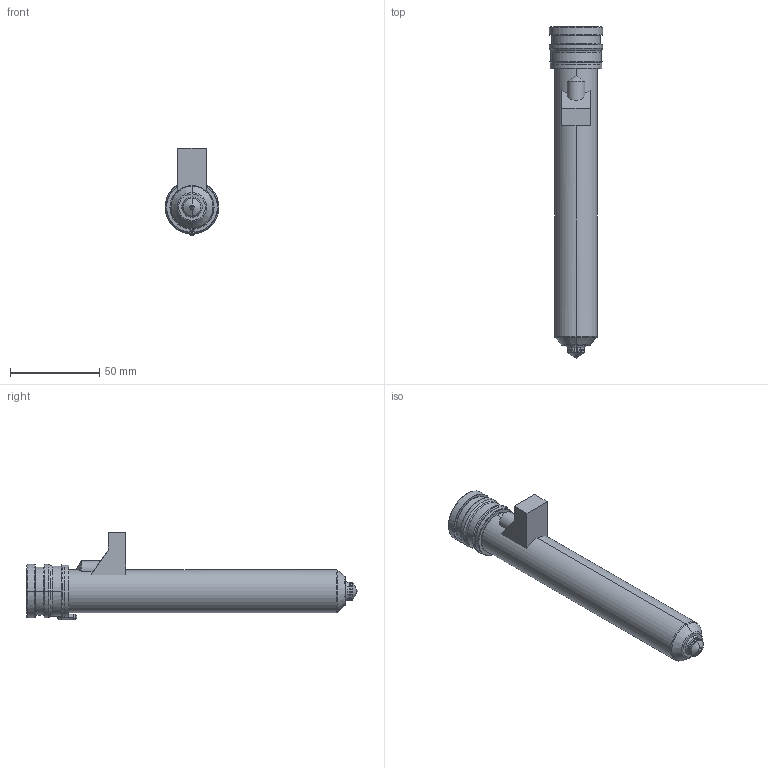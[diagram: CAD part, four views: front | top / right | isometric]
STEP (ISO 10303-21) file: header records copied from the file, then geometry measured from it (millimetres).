
FILE_DESCRIPTION((''),'2;1');
FILE_NAME('MPN-10-29-TS10-166-M','2026-02-05T12:50:00',('UPTIO'),('Thermoplay S.p.A.'),'CREO PARAMETRIC BY PTC INC, 2023494','CREO PARAMETRIC BY PTC INC, 2023494','');
FILE_SCHEMA(('CONFIG_CONTROL_DESIGN','SHAPE_APPEARANCE_LAYERS_GROUPS'));
Length unit declared in the file: millimetre
Products named in the file (1): MPN-10-29-TS10-166-M
Bounding box: 30 x 186 x 49 mm (x, y, z)
Volume: 58101.8 mm3; surface area: 59581.6 mm2
Topology: 3 solids, 5 shells, 542 faces, 1383 edges, 843 vertices
Faces by surface type: cylinder 177, plane 148, bspline 72, torus 67, cone 64, sphere 10, extrusion 4
Entity records: 29231 total; most frequent: CARTESIAN_POINT 13455, ORIENTED_EDGE 2748, DIRECTION 2578, EDGE_CURVE 1374, AXIS2_PLACEMENT_3D 1023, VERTEX_POINT 843, EDGE_LOOP 571, CIRCLE 556
